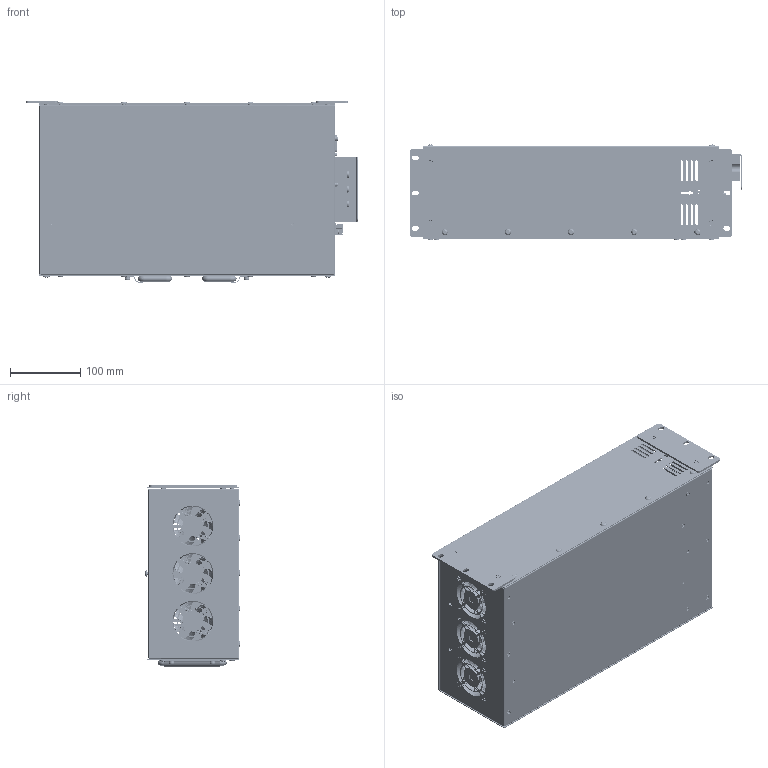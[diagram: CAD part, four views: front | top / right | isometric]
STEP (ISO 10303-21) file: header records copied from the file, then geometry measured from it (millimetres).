
FILE_DESCRIPTION(/* description */ (''),/* implementation_level */ '2;1');
FILE_NAME(/* name */ '',/* time_stamp */ '2026-06-18T08:42:02+09:00',/* author */ ('Administrator'),/* organization */ (''),/* preprocessor_version */ 'ST-DEVELOPER v20.1',/* originating_system */ 'Autodesk Inventor 2026',/* authorisation */ '');
FILE_SCHEMA (('AUTOMOTIVE_DESIGN { 1 0 10303 214 3 1 1 }'));
Products named in the file (1): VX3COM_OLED_21pitch단자대_HANDLE2SM_2026.06.17_단순화_
1
Bounding box: 471.02 x 134.93 x 258.45 mm (x, y, z)
Volume: 764392.9 mm3; surface area: 944795.4 mm2
Topology: 17 solids, 17 shells, 9475 faces, 25198 edges, 16398 vertices
Faces by surface type: plane 5551, cylinder 2042, bspline 1565, torus 218, cone 68, sphere 31
Full cylindrical faces by diameter (mm): 0.013 x9, 0.6 x3, 0.609 x1, 0.61 x27, 0.635 x9, 0.7 x18, 0.75 x18, 0.85 x3, 0.9 x24, 1 x5, 1.397 x9, 1.5 x4, 2.1 x4, 2.286 x9, 2.5 x4, 2.8 x12, 2.957 x12, 3 x6, 3.048 x4, 3.4 x5, 3.6 x25, 3.783 x2, 3.8 x14, 3.9 x2, 4 x41, 4.3 x12, 4.5 x36, 5 x28, 5.3 x10, 5.4 x6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
Entity records: 335843 total; most frequent: CARTESIAN_POINT 95499, ORIENTED_EDGE 50350, DIRECTION 43438, EDGE_CURVE 25175, VERTEX_POINT 16398, LINE 16356, VECTOR 16356, AXIS2_PLACEMENT_3D 13541
